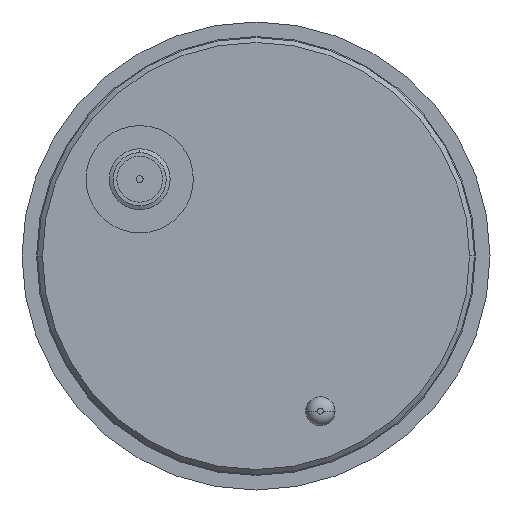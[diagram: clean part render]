
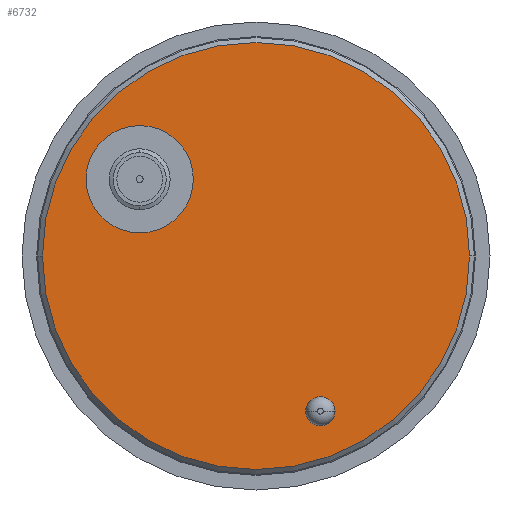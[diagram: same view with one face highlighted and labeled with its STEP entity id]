
A CAD part, front view. The second image highlights one B-rep face of the part: STEP entity #6732.
In plain terms, the highlighted planar face has unit normal (0, -1, 0).
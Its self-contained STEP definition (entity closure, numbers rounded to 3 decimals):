
#109 = EDGE_CURVE ( 'NONE', #5693, #5685, #2979, .T. ) ;
#165 = EDGE_CURVE ( 'NONE', #5717, #5718, #2848, .T. ) ;
#167 = EDGE_CURVE ( 'NONE', #5685, #5693, #2845, .T. ) ;
#169 = EDGE_CURVE ( 'NONE', #5724, #5723, #2842, .T. ) ;
#252 = EDGE_CURVE ( 'NONE', #5723, #5724, #2669, .T. ) ;
#259 = EDGE_CURVE ( 'NONE', #5718, #5717, #2655, .T. ) ;
#569 = CARTESIAN_POINT ( 'NONE',  ( -11.929, 0., 7.875 ) ) ;
#570 = DIRECTION ( 'NONE',  ( 0., 1., 0. ) ) ;
#571 = DIRECTION ( 'NONE',  ( 0., 0., 1. ) ) ;
#576 = CARTESIAN_POINT ( 'NONE',  ( 0., 0., 0. ) ) ;
#577 = DIRECTION ( 'NONE',  ( 0., 1., 0. ) ) ;
#578 = DIRECTION ( 'NONE',  ( -1., 0., 0. ) ) ;
#582 = CARTESIAN_POINT ( 'NONE',  ( 6.604, 0., -15.92 ) ) ;
#583 = DIRECTION ( 'NONE',  ( 0., 1., 0. ) ) ;
#584 = DIRECTION ( 'NONE',  ( -1., 0., 0. ) ) ;
#1610 = CARTESIAN_POINT ( 'NONE',  ( 6.604, 0., -15.92 ) ) ;
#1611 = DIRECTION ( 'NONE',  ( 0., 1., 0. ) ) ;
#1612 = DIRECTION ( 'NONE',  ( -1., 0., 0. ) ) ;
#1631 = CARTESIAN_POINT ( 'NONE',  ( -11.929, 0., 7.875 ) ) ;
#1632 = DIRECTION ( 'NONE',  ( 0., 1., 0. ) ) ;
#1633 = DIRECTION ( 'NONE',  ( 0., 0., 1. ) ) ;
#2106 = CARTESIAN_POINT ( 'NONE',  ( 0., 0., 0. ) ) ;
#2107 = DIRECTION ( 'NONE',  ( 0., 1., 0. ) ) ;
#2108 = DIRECTION ( 'NONE',  ( -1., 0., 0. ) ) ;
#2249 = DIRECTION ( 'NONE',  ( 0., 1., 0. ) ) ;
#2261 = FACE_BOUND ( 'NONE', #6533, .T. ) ;
#2262 = CARTESIAN_POINT ( 'NONE',  ( -5.237, 0., 0. ) ) ;
#2263 = FACE_OUTER_BOUND ( 'NONE', #6532, .T. ) ;
#2265 = FACE_BOUND ( 'NONE', #6529, .T. ) ;
#2266 = PLANE ( 'NONE',  #3886 ) ;
#2267 = DIRECTION ( 'NONE',  ( -1., 0., 0. ) ) ;
#2651 = AXIS2_PLACEMENT_3D ( 'NONE', #1631, #1632, #1633 ) ;
#2655 = CIRCLE ( 'NONE', #2651, 5.5 ) ;
#2667 = AXIS2_PLACEMENT_3D ( 'NONE', #1610, #1611, #1612 ) ;
#2669 = CIRCLE ( 'NONE', #2667, 1.5 ) ;
#2835 = AXIS2_PLACEMENT_3D ( 'NONE', #582, #583, #584 ) ;
#2839 = AXIS2_PLACEMENT_3D ( 'NONE', #576, #577, #578 ) ;
#2842 = CIRCLE ( 'NONE', #2835, 1.5 ) ;
#2844 = AXIS2_PLACEMENT_3D ( 'NONE', #569, #570, #571 ) ;
#2845 = CIRCLE ( 'NONE', #2839, 21.9 ) ;
#2848 = CIRCLE ( 'NONE', #2844, 5.5 ) ;
#2975 = AXIS2_PLACEMENT_3D ( 'NONE', #2106, #2107, #2108 ) ;
#2979 = CIRCLE ( 'NONE', #2975, 21.9 ) ;
#3171 = CARTESIAN_POINT ( 'NONE',  ( -11.929, 0., 13.375 ) ) ;
#3172 = CARTESIAN_POINT ( 'NONE',  ( -11.929, 0., 2.375 ) ) ;
#3177 = CARTESIAN_POINT ( 'NONE',  ( 5.104, 0., -15.92 ) ) ;
#3178 = CARTESIAN_POINT ( 'NONE',  ( 8.104, 0., -15.92 ) ) ;
#3886 = AXIS2_PLACEMENT_3D ( 'NONE', #2262, #2249, #2267 ) ;
#4763 = CARTESIAN_POINT ( 'NONE',  ( 21.9, 0., 0. ) ) ;
#4771 = CARTESIAN_POINT ( 'NONE',  ( -21.9, 0., 0. ) ) ;
#5685 = VERTEX_POINT ( 'NONE', #4763 ) ;
#5693 = VERTEX_POINT ( 'NONE', #4771 ) ;
#5717 = VERTEX_POINT ( 'NONE', #3171 ) ;
#5718 = VERTEX_POINT ( 'NONE', #3172 ) ;
#5723 = VERTEX_POINT ( 'NONE', #3177 ) ;
#5724 = VERTEX_POINT ( 'NONE', #3178 ) ;
#5969 = ORIENTED_EDGE ( 'NONE', *, *, #252, .T. ) ;
#5975 = ORIENTED_EDGE ( 'NONE', *, *, #109, .F. ) ;
#5978 = ORIENTED_EDGE ( 'NONE', *, *, #167, .F. ) ;
#5979 = ORIENTED_EDGE ( 'NONE', *, *, #169, .T. ) ;
#5980 = ORIENTED_EDGE ( 'NONE', *, *, #259, .T. ) ;
#5981 = ORIENTED_EDGE ( 'NONE', *, *, #165, .T. ) ;
#6529 = EDGE_LOOP ( 'NONE', ( #5980, #5981 ) ) ;
#6532 = EDGE_LOOP ( 'NONE', ( #5975, #5978 ) ) ;
#6533 = EDGE_LOOP ( 'NONE', ( #5969, #5979 ) ) ;
#6732 = ADVANCED_FACE ( 'NONE', ( #2261, #2263, #2265 ), #2266, .F. ) ;
